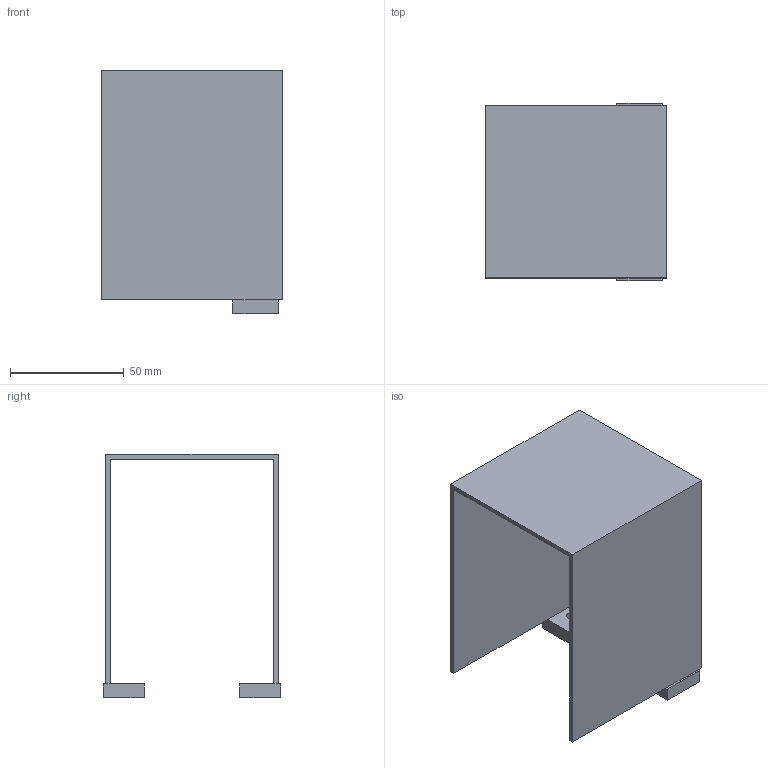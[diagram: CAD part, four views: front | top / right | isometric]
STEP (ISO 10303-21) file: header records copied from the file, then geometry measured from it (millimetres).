
FILE_DESCRIPTION(('Open CASCADE Model'),'2;1');
FILE_NAME('Open CASCADE Shape Model','2026-10-08T14:17:54',('Author'),( 'Open CASCADE'),'Open CASCADE STEP processor 7.9','Open CASCADE 7.9' ,'Unknown');
FILE_SCHEMA(('AUTOMOTIVE_DESIGN { 1 0 10303 214 1 1 1 1 }'));
Length unit declared in the file: millimetre
Products named in the file (1): Open CASCADE STEP translator 7.9 14
Bounding box: 80 x 78 x 107 mm (x, y, z)
Volume: 47864.4 mm3; surface area: 47560.6 mm2
Topology: 1 solids, 1 shells, 28 faces, 70 edges, 44 vertices
Faces by surface type: plane 26, cylinder 2
Full cylindrical faces by diameter (mm): 5.6 x2
Entity records: 1754 total; most frequent: CARTESIAN_POINT 307, DIRECTION 268, LINE 202, VECTOR 202, ORIENTED_EDGE 140, PCURVE 140, DEFINITIONAL_REPRESENTATION 140, EDGE_CURVE 70
